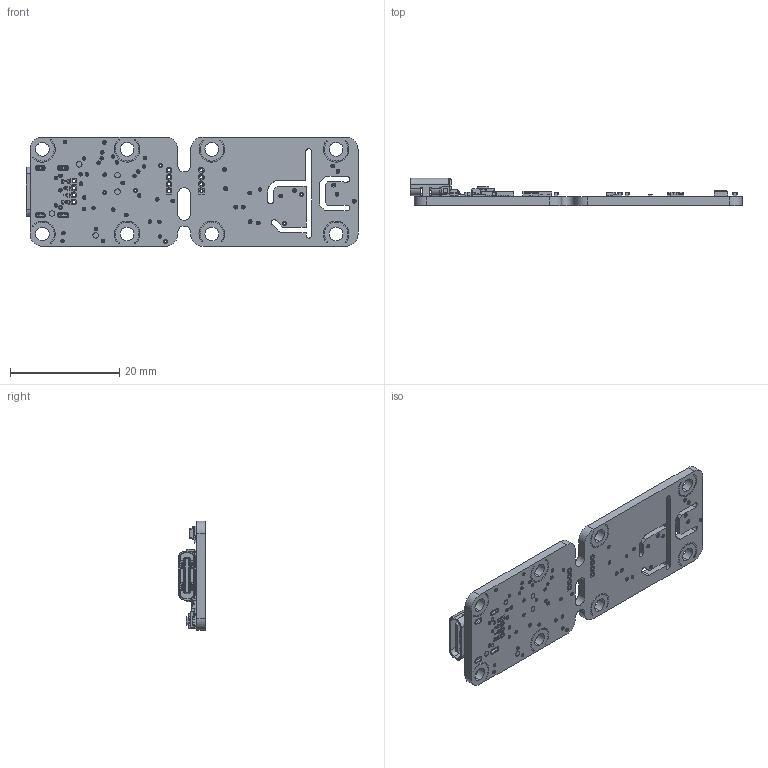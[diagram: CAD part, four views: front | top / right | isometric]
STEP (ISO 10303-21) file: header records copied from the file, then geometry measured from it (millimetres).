
FILE_DESCRIPTION (( 'STEP AP214' ), '1' );
FILE_NAME ('YVOCMK4C.STEP', '2026-05-26T09:33:29', ( '' ), ( '' ), 'SwSTEP 2.0', 'SolidWorks 2008', '' );
FILE_SCHEMA (( 'AUTOMOTIVE_DESIGN' ));
Length unit declared in the file: millimetre
Products named in the file (25): C18; REG1; C16; C2; SW1; Sensor2; LDO1; C17; C19; FLASH1; R10; R4; R2; R1; R26; SENS1; R12; U1; YLED; YVOCMK4C; USB1; T1; iSENSE; PVSS; PCB
Assembly tree (38 placements, depth 2):
  YVOCMK4C
    C17  x10
    U1
    R2
    SENS1
    R10  x4
    C18  x3
    USB1
    R12
    T1
    SW1
    REG1
    R26  x2
    LDO1
    iSENSE
    FLASH1
    YLED
    C2
    PCB
    R4
    C16
    C19
    Sensor2
    R1
  PVSS
Bounding box: 60.75 x 5 x 20.13 mm (x, y, z)
Volume: 1943.3 mm3; surface area: 3850.6 mm2
Topology: 41 solids, 41 shells, 6018 faces, 15662 edges, 10115 vertices
Faces by surface type: plane 3664, cylinder 1579, bspline 624, sphere 132, cone 12, torus 7
Entity records: 240544 total; most frequent: CARTESIAN_POINT 61746, ORIENTED_EDGE 27366, DIRECTION 24570, EDGE_CURVE 13683, LINE 9816, VECTOR 9816, VERTEX_POINT 9023, AXIS2_PLACEMENT_3D 7377
